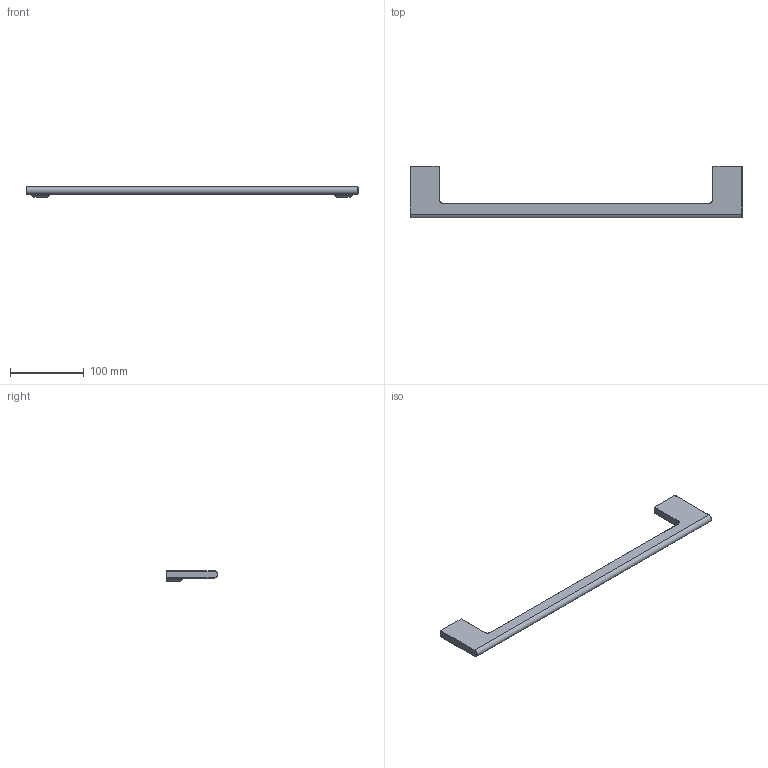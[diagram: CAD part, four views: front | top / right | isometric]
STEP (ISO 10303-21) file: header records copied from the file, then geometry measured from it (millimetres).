
FILE_DESCRIPTION (( 'STEP AP203' ), '1' );
FILE_NAME ('38001D-00-00.STEP', '2019-06-10T01:33:31', ( 'china' ), ( 'china' ), 'SwSTEP 2.0', 'SolidWorks 2011', '' );
FILE_SCHEMA (( 'CONFIG_CONTROL_DESIGN' ));
Length unit declared in the file: millimetre
Products named in the file (1): 38001D-00-00
Bounding box: 450 x 70 x 14.2 mm (x, y, z)
Surface area: 38260 mm2 (no closed solid volume)
Topology: 0 solids, 5 shells, 118 faces, 372 edges, 252 vertices
Faces by surface type: plane 63, cylinder 45, torus 6, cone 4
Entity records: 4207 total; most frequent: CARTESIAN_POINT 903, DIRECTION 674, ORIENTED_EDGE 622, EDGE_CURVE 372, VERTEX_POINT 252, VECTOR 244, LINE 244, AXIS2_PLACEMENT_3D 215
